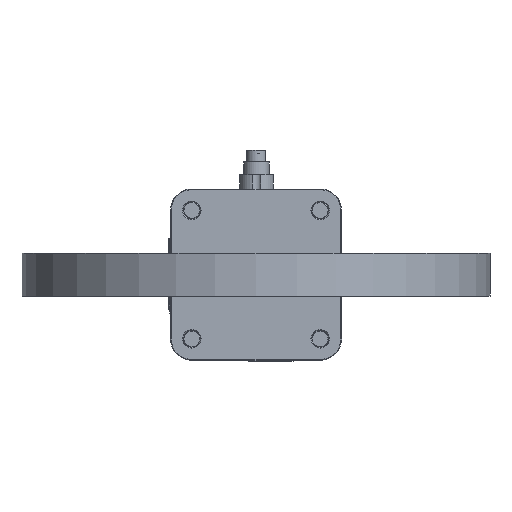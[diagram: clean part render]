
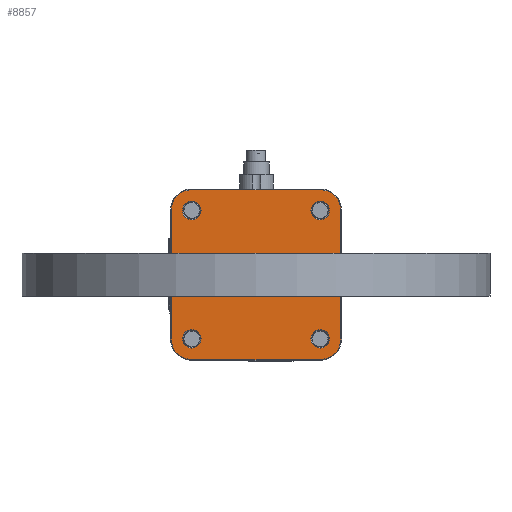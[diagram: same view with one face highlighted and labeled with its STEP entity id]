
A CAD part, front view. The second image highlights one B-rep face of the part: STEP entity #8857.
In plain terms, the highlighted planar face has unit normal (0, -1, 0).
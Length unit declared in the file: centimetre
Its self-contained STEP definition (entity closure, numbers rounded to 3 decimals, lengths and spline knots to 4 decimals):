
#1557=VECTOR('',#11797,1.);
#1558=VECTOR('',#11798,1.);
#1559=VECTOR('',#11799,1.);
#1560=VECTOR('',#11800,1.);
#1561=VECTOR('',#11801,1.);
#1562=VECTOR('',#11804,1.);
#1563=VECTOR('',#11807,1.);
#1564=VECTOR('',#11810,1.);
#1979=LINE('',#38604,#1557);
#1980=LINE('',#38607,#1558);
#1981=LINE('',#38609,#1559);
#1982=LINE('',#38611,#1560);
#1983=LINE('',#38612,#1561);
#1984=LINE('',#38617,#1562);
#1985=LINE('',#38621,#1563);
#1986=LINE('',#38625,#1564);
#2169=PLANE('',#9772);
#2845=VERTEX_POINT('',#38598);
#2846=VERTEX_POINT('',#38601);
#2847=VERTEX_POINT('',#38603);
#2848=VERTEX_POINT('',#38605);
#2849=VERTEX_POINT('',#38606);
#2850=VERTEX_POINT('',#38608);
#2851=VERTEX_POINT('',#38610);
#2852=VERTEX_POINT('',#38613);
#2853=VERTEX_POINT('',#38614);
#2854=VERTEX_POINT('',#38616);
#2855=VERTEX_POINT('',#38618);
#2856=VERTEX_POINT('',#38620);
#2857=VERTEX_POINT('',#38622);
#2858=VERTEX_POINT('',#38624);
#2859=VERTEX_POINT('',#38626);
#2860=VERTEX_POINT('',#38629);
#3371=CIRCLE('',#9771,0.325);
#3372=CIRCLE('',#9773,0.325);
#3373=CIRCLE('',#9774,0.325);
#3374=CIRCLE('',#9775,0.725);
#3375=CIRCLE('',#9776,0.725);
#3376=CIRCLE('',#9777,0.725);
#3377=CIRCLE('',#9778,0.725);
#3378=CIRCLE('',#9779,0.325);
#4471=EDGE_CURVE('',#2845,#2845,#3371,.T.);
#4472=EDGE_CURVE('',#2846,#2846,#3372,.T.);
#4473=EDGE_CURVE('',#2847,#2847,#3373,.T.);
#4474=EDGE_CURVE('',#2848,#2849,#1979,.T.);
#4475=EDGE_CURVE('',#2850,#2848,#1980,.T.);
#4476=EDGE_CURVE('',#2851,#2850,#1981,.T.);
#4477=EDGE_CURVE('',#2849,#2851,#1982,.T.);
#4478=EDGE_CURVE('',#2852,#2853,#1983,.T.);
#4479=EDGE_CURVE('',#2854,#2852,#3374,.T.);
#4480=EDGE_CURVE('',#2855,#2854,#1984,.T.);
#4481=EDGE_CURVE('',#2856,#2855,#3375,.T.);
#4482=EDGE_CURVE('',#2857,#2856,#1985,.T.);
#4483=EDGE_CURVE('',#2858,#2857,#3376,.T.);
#4484=EDGE_CURVE('',#2859,#2858,#1986,.T.);
#4485=EDGE_CURVE('',#2853,#2859,#3377,.T.);
#4486=EDGE_CURVE('',#2860,#2860,#3378,.T.);
#6679=ORIENTED_EDGE('',*,*,#4472,.F.);
#6680=ORIENTED_EDGE('',*,*,#4473,.F.);
#6681=ORIENTED_EDGE('',*,*,#4474,.F.);
#6682=ORIENTED_EDGE('',*,*,#4475,.F.);
#6683=ORIENTED_EDGE('',*,*,#4476,.F.);
#6684=ORIENTED_EDGE('',*,*,#4477,.F.);
#6685=ORIENTED_EDGE('',*,*,#4478,.F.);
#6686=ORIENTED_EDGE('',*,*,#4479,.F.);
#6687=ORIENTED_EDGE('',*,*,#4480,.F.);
#6688=ORIENTED_EDGE('',*,*,#4481,.F.);
#6689=ORIENTED_EDGE('',*,*,#4482,.F.);
#6690=ORIENTED_EDGE('',*,*,#4483,.F.);
#6691=ORIENTED_EDGE('',*,*,#4484,.F.);
#6692=ORIENTED_EDGE('',*,*,#4485,.F.);
#6693=ORIENTED_EDGE('',*,*,#4486,.F.);
#6694=ORIENTED_EDGE('',*,*,#4471,.F.);
#7528=EDGE_LOOP('',(#6679));
#7529=EDGE_LOOP('',(#6680));
#7530=EDGE_LOOP('',(#6681,#6682,#6683,#6684));
#7531=EDGE_LOOP('',(#6685,#6686,#6687,#6688,#6689,#6690,#6691,#6692));
#7532=EDGE_LOOP('',(#6693));
#7533=EDGE_LOOP('',(#6694));
#8244=FACE_BOUND('',#7528,.T.);
#8245=FACE_BOUND('',#7529,.T.);
#8246=FACE_BOUND('',#7530,.T.);
#8247=FACE_BOUND('',#7531,.T.);
#8248=FACE_BOUND('',#7532,.T.);
#8249=FACE_BOUND('',#7533,.T.);
#8857=ADVANCED_FACE('',(#8244,#8245,#8246,#8247,#8248,#8249),#2169,.F.);
#9771=AXIS2_PLACEMENT_3D('',#38597,#11790,#11791);
#9772=AXIS2_PLACEMENT_3D('',#38599,#11792,$);
#9773=AXIS2_PLACEMENT_3D('',#38600,#11793,#11794);
#9774=AXIS2_PLACEMENT_3D('',#38602,#11795,#11796);
#9775=AXIS2_PLACEMENT_3D('',#38615,#11802,#11803);
#9776=AXIS2_PLACEMENT_3D('',#38619,#11805,#11806);
#9777=AXIS2_PLACEMENT_3D('',#38623,#11808,#11809);
#9778=AXIS2_PLACEMENT_3D('',#38627,#11811,#11812);
#9779=AXIS2_PLACEMENT_3D('',#38628,#11813,#11814);
#11790=DIRECTION('',(0.,-1.,0.));
#11791=DIRECTION('',(-0.325,0.,0.));
#11792=DIRECTION('',(0.,1.,0.));
#11793=DIRECTION('',(0.,-1.,0.));
#11794=DIRECTION('',(-0.325,0.,0.));
#11795=DIRECTION('',(0.,-1.,0.));
#11796=DIRECTION('',(-0.325,0.,0.));
#11797=DIRECTION('',(0.,0.,1.));
#11798=DIRECTION('',(1.,0.,0.));
#11799=DIRECTION('',(0.,0.,-1.));
#11800=DIRECTION('',(-1.,0.,0.));
#11801=DIRECTION('',(1.,0.,0.));
#11802=DIRECTION('',(0.,1.,0.));
#11803=DIRECTION('',(-0.513,0.,0.513));
#11804=DIRECTION('',(0.,0.,1.));
#11805=DIRECTION('',(0.,1.,0.));
#11806=DIRECTION('',(-0.513,0.,-0.513));
#11807=DIRECTION('',(-1.,0.,0.));
#11808=DIRECTION('',(0.,1.,0.));
#11809=DIRECTION('',(0.513,0.,-0.513));
#11810=DIRECTION('',(0.,0.,-1.));
#11811=DIRECTION('',(0.,1.,0.));
#11812=DIRECTION('',(0.513,0.,0.513));
#11813=DIRECTION('',(0.,-1.,0.));
#11814=DIRECTION('',(-0.325,0.,0.));
#38597=CARTESIAN_POINT('',(1.7162,-8.0198,5.0385));
#38598=CARTESIAN_POINT('',(2.0412,-8.0198,5.0385));
#38599=CARTESIAN_POINT('',(-0.5338,-8.0198,2.7885));
#38600=CARTESIAN_POINT('',(1.7162,-8.0198,0.5385));
#38601=CARTESIAN_POINT('',(2.0412,-8.0198,0.5385));
#38602=CARTESIAN_POINT('',(-2.7838,-8.0198,5.0385));
#38603=CARTESIAN_POINT('',(-2.4588,-8.0198,5.0385));
#38604=CARTESIAN_POINT('',(0.8662,-8.0198,3.0885));
#38605=CARTESIAN_POINT('',(0.8662,-8.0198,2.0385));
#38606=CARTESIAN_POINT('',(0.8662,-8.0198,3.5385));
#38607=CARTESIAN_POINT('',(-0.5338,-8.0198,2.0385));
#38608=CARTESIAN_POINT('',(-1.9338,-8.0198,2.0385));
#38609=CARTESIAN_POINT('',(-1.9338,-8.0198,3.0885));
#38610=CARTESIAN_POINT('',(-1.9338,-8.0198,3.5385));
#38611=CARTESIAN_POINT('',(-0.5338,-8.0198,3.5385));
#38612=CARTESIAN_POINT('',(-0.5338,-8.0198,5.7635));
#38613=CARTESIAN_POINT('',(-2.7838,-8.0198,5.7635));
#38614=CARTESIAN_POINT('',(1.7162,-8.0198,5.7635));
#38615=CARTESIAN_POINT('',(-2.7838,-8.0198,5.0385));
#38616=CARTESIAN_POINT('',(-3.5088,-8.0198,5.0385));
#38617=CARTESIAN_POINT('',(-3.5088,-8.0198,2.7885));
#38618=CARTESIAN_POINT('',(-3.5088,-8.0198,0.5385));
#38619=CARTESIAN_POINT('',(-2.7838,-8.0198,0.5385));
#38620=CARTESIAN_POINT('',(-2.7838,-8.0198,-0.1865));
#38621=CARTESIAN_POINT('',(-0.5338,-8.0198,-0.1865));
#38622=CARTESIAN_POINT('',(1.7162,-8.0198,-0.1865));
#38623=CARTESIAN_POINT('',(1.7162,-8.0198,0.5385));
#38624=CARTESIAN_POINT('',(2.4412,-8.0198,0.5385));
#38625=CARTESIAN_POINT('',(2.4412,-8.0198,2.7885));
#38626=CARTESIAN_POINT('',(2.4412,-8.0198,5.0385));
#38627=CARTESIAN_POINT('',(1.7162,-8.0198,5.0385));
#38628=CARTESIAN_POINT('',(-2.7838,-8.0198,0.5385));
#38629=CARTESIAN_POINT('',(-2.4588,-8.0198,0.5385));
